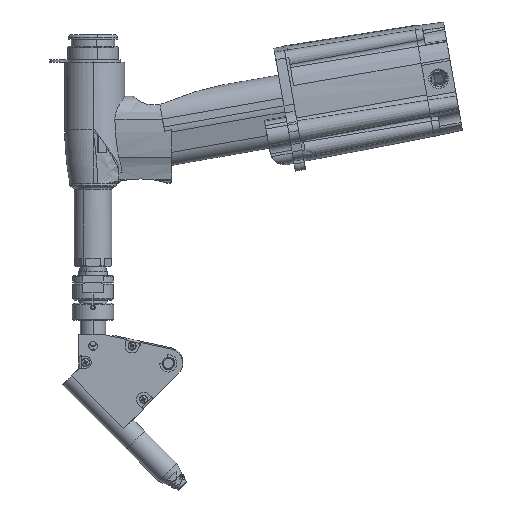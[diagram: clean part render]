
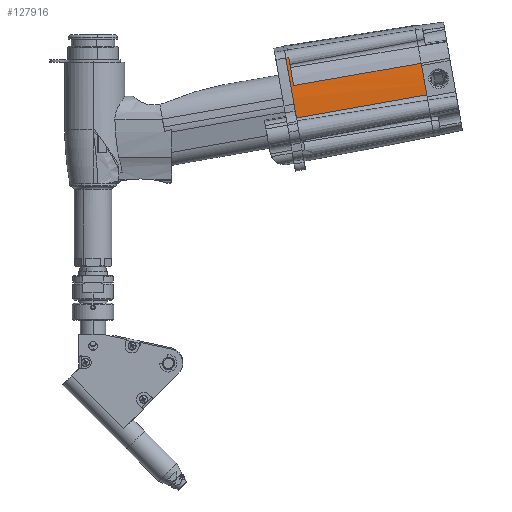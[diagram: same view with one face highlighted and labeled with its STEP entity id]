
A CAD part, left-side view. The second image highlights one B-rep face of the part: STEP entity #127916.
In plain terms, the highlighted conical face has half-angle 1.065 degrees and reference radius 162 mm.
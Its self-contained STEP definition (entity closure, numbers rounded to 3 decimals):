
#3560 = EDGE_CURVE ( 'NONE', #100223, #100959, #28337, .T. ) ;
#15099 = DIRECTION ( 'NONE',  ( 0., 0.985, -0.174 ) ) ;
#15614 = CARTESIAN_POINT ( 'NONE',  ( -38.76, -230.638, 30.9 ) ) ;
#19946 = AXIS2_PLACEMENT_3D ( 'NONE', #129609, #53928, #143795 ) ;
#20055 = VERTEX_POINT ( 'NONE', #130523 ) ;
#28337 = CIRCLE ( 'NONE', #73381, 160.299 ) ;
#30439 = EDGE_CURVE ( 'NONE', #196885, #20055, #80008, .T. ) ;
#32858 = EDGE_LOOP ( 'NONE', ( #154873, #174686, #155656, #117751, #73596, #49995 ) ) ;
#34399 = AXIS2_PLACEMENT_3D ( 'NONE', #122170, #15099, #61612 ) ;
#35615 = DIRECTION ( 'NONE',  ( -0.018, 0.985, -0.17 ) ) ;
#38987 = DIRECTION ( 'NONE',  ( -0.019, 0.985, -0.172 ) ) ;
#41988 = CARTESIAN_POINT ( 'NONE',  ( -40.252, -136.653, 36.987 ) ) ;
#49995 = ORIENTED_EDGE ( 'NONE', *, *, #30439, .T. ) ;
#53928 = DIRECTION ( 'NONE',  ( 0., 0.985, -0.174 ) ) ;
#54728 = DIRECTION ( 'NONE',  ( 0., 0.985, -0.174 ) ) ;
#56787 = EDGE_CURVE ( 'NONE', #63904, #20055, #106451, .T. ) ;
#60548 = LINE ( 'NONE', #61551, #82393 ) ;
#61551 = CARTESIAN_POINT ( 'NONE',  ( -40.458, -140.546, 14.911 ) ) ;
#61612 = DIRECTION ( 'NONE',  ( 0., 0.174, 0.985 ) ) ;
#63904 = VERTEX_POINT ( 'NONE', #168048 ) ;
#64419 = EDGE_CURVE ( 'NONE', #63904, #100223, #60548, .T. ) ;
#70810 = CARTESIAN_POINT ( 'NONE',  ( 121.25, -228.968, 40.373 ) ) ;
#73381 = AXIS2_PLACEMENT_3D ( 'NONE', #70810, #194850, #195833 ) ;
#73596 = ORIENTED_EDGE ( 'NONE', *, *, #135079, .T. ) ;
#80008 = LINE ( 'NONE', #141599, #194333 ) ;
#82393 = VECTOR ( 'NONE', #123111, 1000. ) ;
#100223 = VERTEX_POINT ( 'NONE', #15614 ) ;
#100578 = LINE ( 'NONE', #41988, #107091 ) ;
#100959 = VERTEX_POINT ( 'NONE', #105286 ) ;
#105286 = CARTESIAN_POINT ( 'NONE',  ( -38.556, -226.786, 52.744 ) ) ;
#106451 = CIRCLE ( 'NONE', #109626, 162. ) ;
#107091 = VECTOR ( 'NONE', #38987, 1000. ) ;
#109626 = AXIS2_PLACEMENT_3D ( 'NONE', #130382, #54728, #134350 ) ;
#110349 = CIRCLE ( 'NONE', #19946, 161.963 ) ;
#117751 = ORIENTED_EDGE ( 'NONE', *, *, #121742, .T. ) ;
#121742 = EDGE_CURVE ( 'NONE', #100959, #125628, #100578, .T. ) ;
#122170 = CARTESIAN_POINT ( 'NONE',  ( 121.25, -138.858, 24.484 ) ) ;
#123111 = DIRECTION ( 'NONE',  ( 0.019, -0.984, 0.175 ) ) ;
#125628 = VERTEX_POINT ( 'NONE', #167419 ) ;
#127916 = ADVANCED_FACE ( 'NONE', ( #170548 ), #153703, .T. ) ;
#129609 = CARTESIAN_POINT ( 'NONE',  ( 121.25, -140.828, 24.832 ) ) ;
#130382 = CARTESIAN_POINT ( 'NONE',  ( 121.25, -138.858, 24.484 ) ) ;
#130523 = CARTESIAN_POINT ( 'NONE',  ( -37.475, -133.23, 56.399 ) ) ;
#134350 = DIRECTION ( 'NONE',  ( 0., -0.174, -0.985 ) ) ;
#135079 = EDGE_CURVE ( 'NONE', #125628, #196885, #110349, .T. ) ;
#141599 = CARTESIAN_POINT ( 'NONE',  ( -37.475, -133.23, 56.399 ) ) ;
#143795 = DIRECTION ( 'NONE',  ( 0., -0.174, -0.985 ) ) ;
#153703 = CONICAL_SURFACE ( 'NONE', #34399, 162., 0.019 ) ;
#154873 = ORIENTED_EDGE ( 'NONE', *, *, #56787, .F. ) ;
#155656 = ORIENTED_EDGE ( 'NONE', *, *, #3560, .T. ) ;
#167419 = CARTESIAN_POINT ( 'NONE',  ( -40.215, -138.624, 37.331 ) ) ;
#168048 = CARTESIAN_POINT ( 'NONE',  ( -40.458, -140.546, 14.911 ) ) ;
#170548 = FACE_OUTER_BOUND ( 'NONE', #32858, .T. ) ;
#174686 = ORIENTED_EDGE ( 'NONE', *, *, #64419, .T. ) ;
#187425 = CARTESIAN_POINT ( 'NONE',  ( -37.439, -135.201, 56.739 ) ) ;
#194333 = VECTOR ( 'NONE', #35615, 1000. ) ;
#194850 = DIRECTION ( 'NONE',  ( 0., 0.985, -0.174 ) ) ;
#195833 = DIRECTION ( 'NONE',  ( 0., -0.174, -0.985 ) ) ;
#196885 = VERTEX_POINT ( 'NONE', #187425 ) ;
